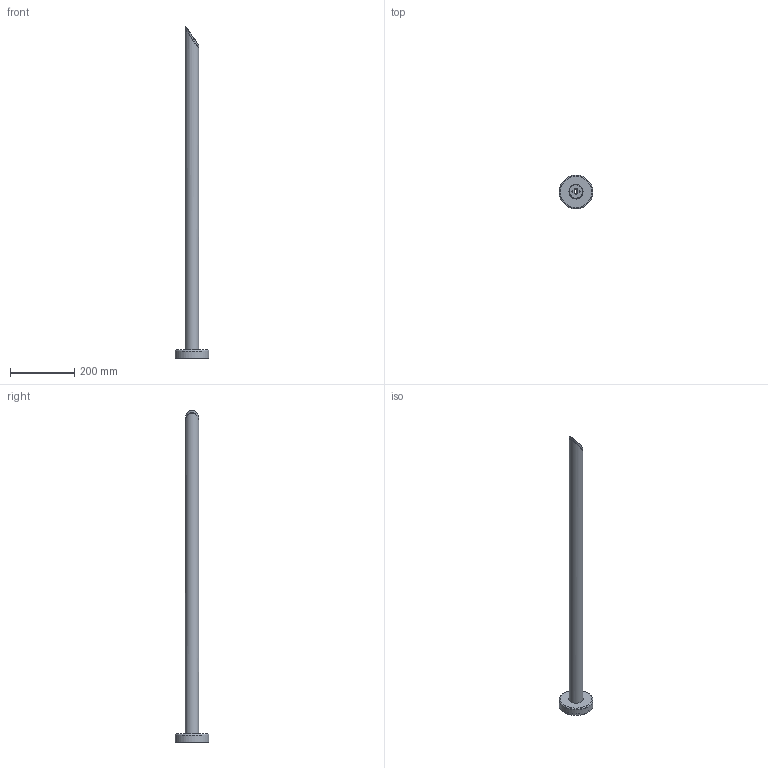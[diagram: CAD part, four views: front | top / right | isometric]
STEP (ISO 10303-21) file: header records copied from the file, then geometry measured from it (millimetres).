
FILE_DESCRIPTION(/* description */ ('Unknown'),/* implementation_level */ '2;1');
FILE_NAME(/* name */ '55870012_00',/* time_stamp */ '2023-03-13T11:00:30+01:00',/* author */ ('Unknown'),/* organization */ ('Unknown'),/* preprocessor_version */ 'ST-DEVELOPER v18.102',/* originating_system */ 'Solid Edge',/* authorisation */ 'Unknown');
FILE_SCHEMA (('AUTOMOTIVE_DESIGN {1 0 10303 214 3 1 1}'));
Length unit declared in the file: millimetre
Products named in the file (4): 55870012; 20500029; 20500029-MPOST-Fuss; 20500029-MPOST-Rosette
Assembly tree (3 placements, depth 3):
  55870012
    20500029
      20500029-MPOST-Fuss
      20500029-MPOST-Rosette
Bounding box: 105 x 105 x 1030 mm (x, y, z)
Volume: 326620.8 mm3; surface area: 300730.3 mm2
Topology: 2 solids, 2 shells, 52 faces, 134 edges, 88 vertices
Faces by surface type: cylinder 31, plane 17, bspline 2, torus 2
Full cylindrical faces by diameter (mm): 4.134 x2, 20 x1, 38.4 x1, 42.4 x2, 44 x1, 101 x1, 105 x1
Entity records: 2711 total; most frequent: CARTESIAN_POINT 1067, DIRECTION 277, ORIENTED_EDGE 230, EDGE_CURVE 115, AXIS2_PLACEMENT_3D 114, EDGE_LOOP 83, FACE_BOUND 83, VERTEX_POINT 82
